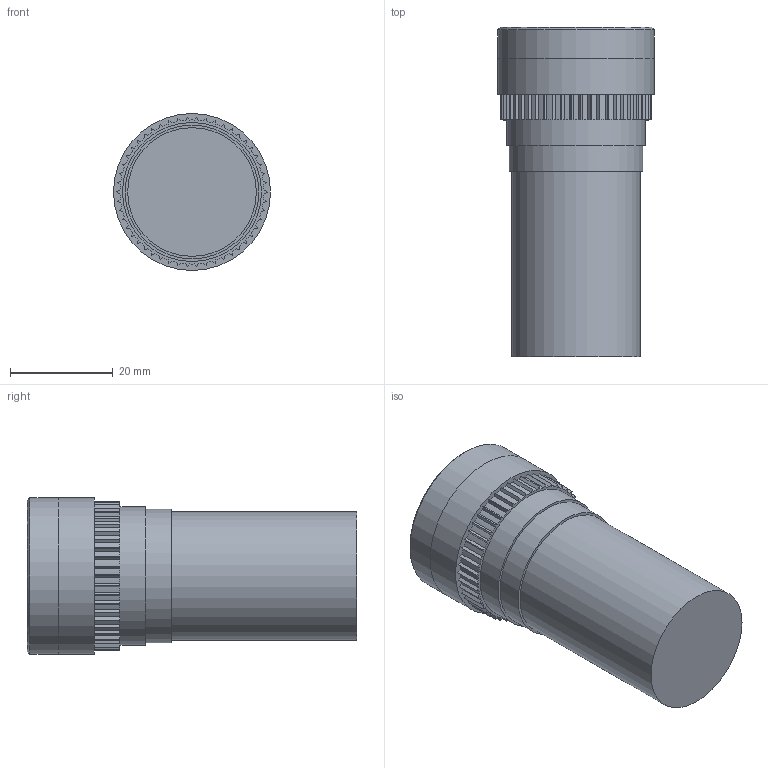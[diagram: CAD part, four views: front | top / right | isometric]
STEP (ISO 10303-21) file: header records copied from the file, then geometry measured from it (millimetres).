
FILE_DESCRIPTION(/* description */ (''),/* implementation_level */ '2;1');
FILE_NAME(/* name */ 'D:\CHINT3\ND16-22F.stp',/* time_stamp */ '2017-12-10T20:19:20+03:00',/* author */ ('RSagdiev'),/* organization */ (''),/* preprocessor_version */ 'ST-DEVELOPER v16.5',/* originating_system */ 'Autodesk Inventor 2017',/* authorisation */ '');
FILE_SCHEMA (('AUTOMOTIVE_DESIGN { 1 0 10303 214 3 1 1 }'));
Length unit declared in the file: millimetre
Products named in the file (1): ND16-22F
Bounding box: 30.5 x 64 x 30.5 mm (x, y, z)
Volume: 35804.1 mm3; surface area: 9662.4 mm2
Topology: 3 solids, 3 shells, 165 faces, 467 edges, 311 vertices
Faces by surface type: plane 109, cylinder 55, cone 1
Full cylindrical faces by diameter (mm): 25 x1, 26 x1, 27 x1, 30.5 x2
Entity records: 5350 total; most frequent: CARTESIAN_POINT 938, ORIENTED_EDGE 922, DIRECTION 904, EDGE_CURVE 461, LINE 350, VECTOR 350, VERTEX_POINT 311, AXIS2_PLACEMENT_3D 277
